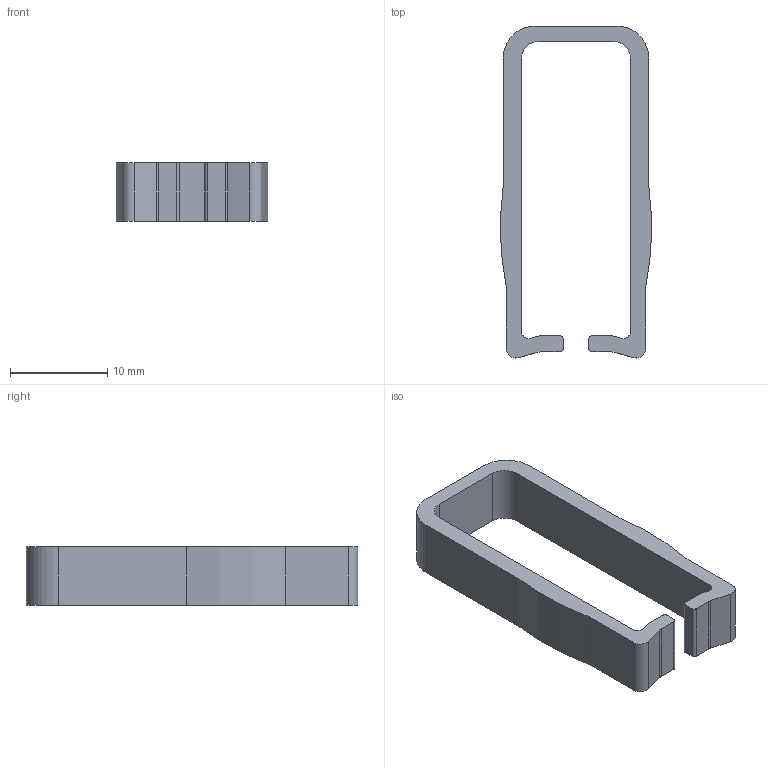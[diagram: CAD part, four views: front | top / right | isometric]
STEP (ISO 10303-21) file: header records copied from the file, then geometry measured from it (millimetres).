
FILE_DESCRIPTION (( 'STEP AP203' ), '1' );
FILE_NAME ('Distanzhalter Rechteckreling.STEP', '2014-02-14T12:41:06', ( 'test' ), ( '' ), 'SwSTEP 2.0', 'SolidWorks 2013', '' );
FILE_SCHEMA (( 'CONFIG_CONTROL_DESIGN' ));
Length unit declared in the file: millimetre
Products named in the file (1): Distanzhalter Rechteckreling
Bounding box: 15.58 x 34.16 x 6 mm (x, y, z)
Volume: 938.6 mm3; surface area: 1352.2 mm2
Topology: 1 solids, 1 shells, 38 faces, 108 edges, 72 vertices
Faces by surface type: plane 20, cylinder 18
Entity records: 1325 total; most frequent: DIRECTION 222, CARTESIAN_POINT 219, ORIENTED_EDGE 216, EDGE_CURVE 108, AXIS2_PLACEMENT_3D 75, VECTOR 72, VERTEX_POINT 72, LINE 72
